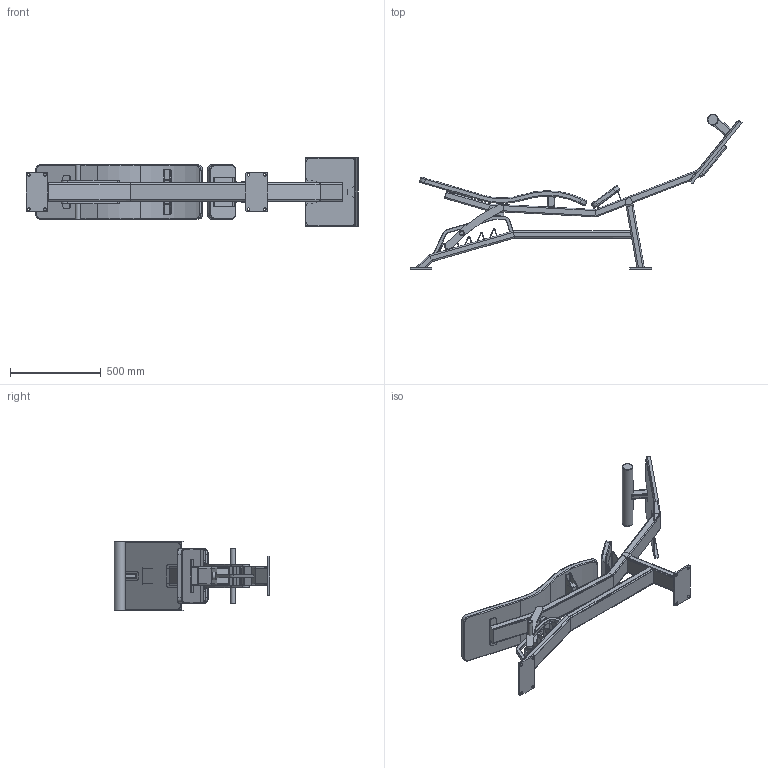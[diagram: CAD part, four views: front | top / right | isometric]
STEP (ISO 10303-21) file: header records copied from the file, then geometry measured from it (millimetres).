
FILE_DESCRIPTION(/* description */ (''),/* implementation_level */ '2;1');
FILE_NAME(/* name */ 'OG91_3D_dwg_Low.step',/* time_stamp */ '2025-11-11T16:06:32+02:00',/* author */ (''),/* organization */ (''),/* preprocessor_version */ 'ST-DEVELOPER v20.1',/* originating_system */ 'Autodesk Translation Framework v14.21.0.0',/* authorisation */ '');
FILE_SCHEMA (('AUTOMOTIVE_DESIGN { 1 0 10303 214 3 1 1 }'));
Length unit declared in the file: millimetre
Products named in the file (1): OG91_3D_dwg_Low
Bounding box: 1833.64 x 858.78 x 386 mm (x, y, z)
Volume: 15986274.1 mm3; surface area: 3814409.1 mm2
Topology: 39 solids, 39 shells, 603 faces, 1418 edges, 890 vertices
Faces by surface type: plane 327, cylinder 230, torus 35, bspline 8, cone 3
Full cylindrical faces by diameter (mm): 10 x1, 15 x8, 24.96 x1, 25 x1, 28 x2, 32 x3, 40 x1, 42 x1, 55 x2, 55.1 x1, 60.3 x1
Entity records: 19007 total; most frequent: CARTESIAN_POINT 4741, DIRECTION 3077, ORIENTED_EDGE 2836, EDGE_CURVE 1418, AXIS2_PLACEMENT_3D 1098, VERTEX_POINT 890, LINE 881, VECTOR 881
